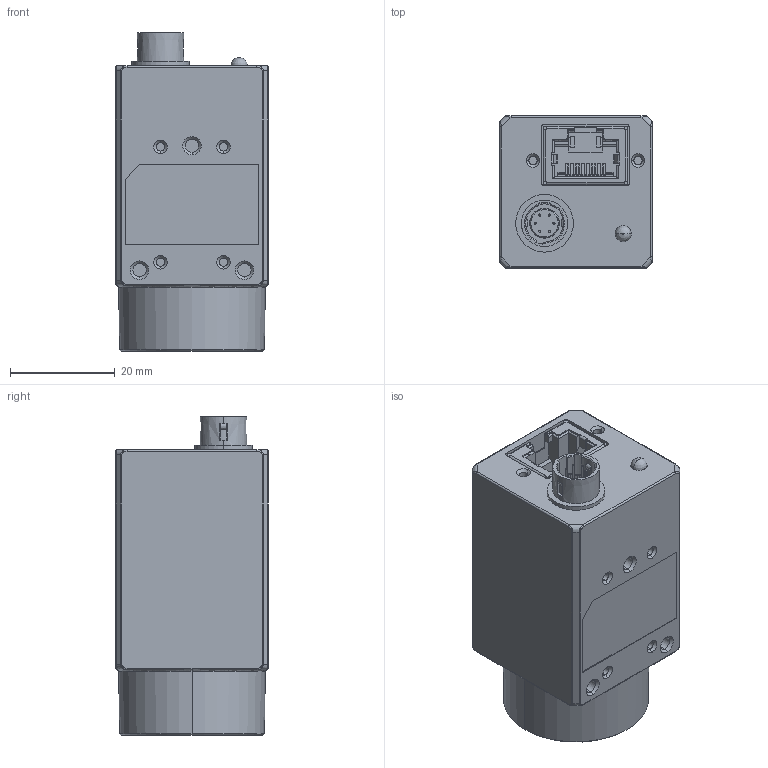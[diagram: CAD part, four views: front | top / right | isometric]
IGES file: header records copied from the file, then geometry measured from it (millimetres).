
Start section:  PTC IGES file: MV-CA020-10GMGC.igs
Global section: file name: MV-CA020-10GMGC.igs; native system: Creo Parametric by PTC Inc.; preprocessor: 2017260; author: wangyijun6; organization: Unknown; date: 20200311.101949; units: millimetre
Bounding box: 29 x 29 x 60.81 mm (x, y, z)
Volume: 34024.1 mm3; surface area: 14298.7 mm2
Topology: 1 solids, 1 shells, 1196 faces, 3515 edges, 2292 vertices
Faces by surface type: bspline 835, revolution 361
